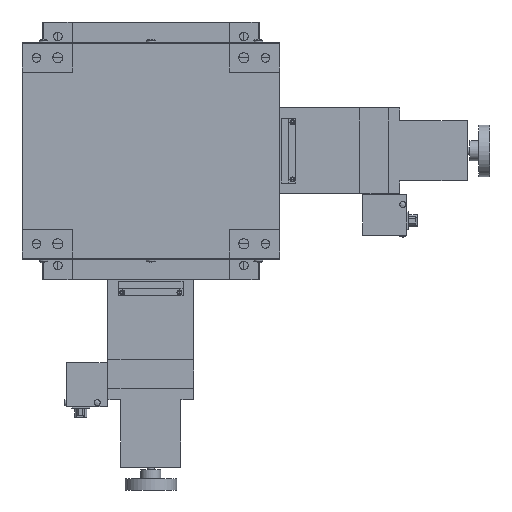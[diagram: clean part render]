
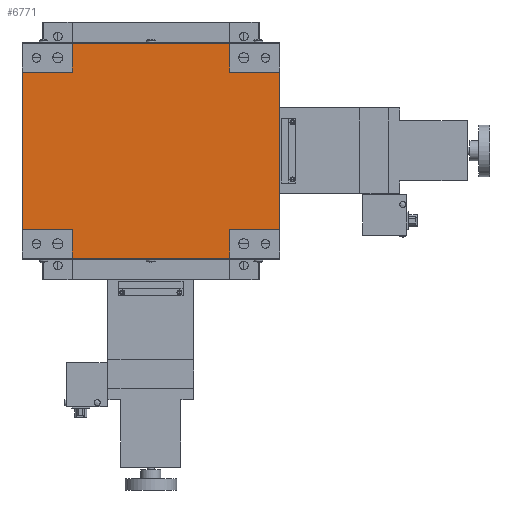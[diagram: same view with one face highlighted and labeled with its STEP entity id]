
A CAD part, front view. The second image highlights one B-rep face of the part: STEP entity #6771.
In plain terms, the highlighted planar face has unit normal (0, -1, 0).
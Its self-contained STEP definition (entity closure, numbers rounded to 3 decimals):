
#6246 = EDGE_CURVE ( 'NONE', #6528, #6247, #25334, .T. ) ;
#6247 = VERTEX_POINT ( 'NONE', #25330 ) ;
#6266 = VERTEX_POINT ( 'NONE', #25395 ) ;
#6291 = VERTEX_POINT ( 'NONE', #25347 ) ;
#6293 = EDGE_CURVE ( 'NONE', #6291, #6312, #25345, .T. ) ;
#6298 = EDGE_CURVE ( 'NONE', #6266, #6299, #25551, .T. ) ;
#6299 = VERTEX_POINT ( 'NONE', #25547 ) ;
#6312 = VERTEX_POINT ( 'NONE', #25522 ) ;
#6373 = VERTEX_POINT ( 'NONE', #25612 ) ;
#6388 = EDGE_CURVE ( 'NONE', #6266, #6373, #25653, .T. ) ;
#6528 = VERTEX_POINT ( 'NONE', #25786 ) ;
#6534 = VERTEX_POINT ( 'NONE', #25781 ) ;
#6537 = EDGE_CURVE ( 'NONE', #6534, #6528, #25907, .T. ) ;
#6546 = VERTEX_POINT ( 'NONE', #25888 ) ;
#6548 = EDGE_CURVE ( 'NONE', #6546, #6549, #25887, .T. ) ;
#6549 = VERTEX_POINT ( 'NONE', #25883 ) ;
#6622 = EDGE_CURVE ( 'NONE', #6373, #6247, #26236, .T. ) ;
#6678 = ORIENTED_EDGE ( 'NONE', *, *, #6679, .T. ) ;
#6679 = EDGE_CURVE ( 'NONE', #6680, #6312, #26290, .T. ) ;
#6680 = VERTEX_POINT ( 'NONE', #26282 ) ;
#6704 = EDGE_CURVE ( 'NONE', #6549, #6534, #26081, .T. ) ;
#6739 = ORIENTED_EDGE ( 'NONE', *, *, #6246, .F. ) ;
#6740 = ORIENTED_EDGE ( 'NONE', *, *, #6537, .F. ) ;
#6741 = ORIENTED_EDGE ( 'NONE', *, *, #6704, .F. ) ;
#6742 = ORIENTED_EDGE ( 'NONE', *, *, #6548, .F. ) ;
#6743 = ORIENTED_EDGE ( 'NONE', *, *, #6787, .F. ) ;
#6758 = EDGE_CURVE ( 'NONE', #6299, #6291, #26044, .T. ) ;
#6759 = ORIENTED_EDGE ( 'NONE', *, *, #6298, .F. ) ;
#6765 = ORIENTED_EDGE ( 'NONE', *, *, #6388, .T. ) ;
#6766 = ORIENTED_EDGE ( 'NONE', *, *, #6622, .T. ) ;
#6767 = ORIENTED_EDGE ( 'NONE', *, *, #6768, .F. ) ;
#6768 = EDGE_CURVE ( 'NONE', #6680, #6821, #26147, .T. ) ;
#6771 = ADVANCED_FACE ( 'NONE', ( #26137 ), #26136, .F. ) ;
#6772 = ORIENTED_EDGE ( 'NONE', *, *, #6293, .F. ) ;
#6773 = ORIENTED_EDGE ( 'NONE', *, *, #6758, .F. ) ;
#6774 = EDGE_LOOP ( 'NONE', ( #6678, #6772, #6773, #6759, #6765, #6766, #6739, #6740, #6741, #6742, #6743, #6767 ) ) ;
#6787 = EDGE_CURVE ( 'NONE', #6821, #6546, #26250, .T. ) ;
#6821 = VERTEX_POINT ( 'NONE', #26365 ) ;
#25330 = CARTESIAN_POINT ( 'NONE',  ( -90., 1., -55. ) ) ;
#25331 = DIRECTION ( 'NONE',  ( -1., 0., 0. ) ) ;
#25332 = VECTOR ( 'NONE', #25331, 1000. ) ;
#25333 = CARTESIAN_POINT ( 'NONE',  ( 90., 1., -55. ) ) ;
#25334 = LINE ( 'NONE', #25333, #25332 ) ;
#25342 = DIRECTION ( 'NONE',  ( 0., 0., -1. ) ) ;
#25343 = VECTOR ( 'NONE', #25342, 1000. ) ;
#25344 = CARTESIAN_POINT ( 'NONE',  ( 55., 1., -75. ) ) ;
#25345 = LINE ( 'NONE', #25344, #25343 ) ;
#25347 = CARTESIAN_POINT ( 'NONE',  ( 55., 1., 75. ) ) ;
#25395 = CARTESIAN_POINT ( 'NONE',  ( -55., 1., 55. ) ) ;
#25522 = CARTESIAN_POINT ( 'NONE',  ( 55., 1., 55. ) ) ;
#25547 = CARTESIAN_POINT ( 'NONE',  ( -55., 1., 75. ) ) ;
#25548 = DIRECTION ( 'NONE',  ( 0., 0., 1. ) ) ;
#25549 = VECTOR ( 'NONE', #25548, 1000. ) ;
#25550 = CARTESIAN_POINT ( 'NONE',  ( -55., 1., -75. ) ) ;
#25551 = LINE ( 'NONE', #25550, #25549 ) ;
#25612 = CARTESIAN_POINT ( 'NONE',  ( -90., 1., 55. ) ) ;
#25650 = DIRECTION ( 'NONE',  ( -1., 0., 0. ) ) ;
#25651 = VECTOR ( 'NONE', #25650, 1000. ) ;
#25652 = CARTESIAN_POINT ( 'NONE',  ( 90., 1., 55. ) ) ;
#25653 = LINE ( 'NONE', #25652, #25651 ) ;
#25781 = CARTESIAN_POINT ( 'NONE',  ( -55., 1., -75. ) ) ;
#25786 = CARTESIAN_POINT ( 'NONE',  ( -55., 1., -55. ) ) ;
#25883 = CARTESIAN_POINT ( 'NONE',  ( 55., 1., -75. ) ) ;
#25884 = DIRECTION ( 'NONE',  ( 0., 0., -1. ) ) ;
#25885 = VECTOR ( 'NONE', #25884, 1000. ) ;
#25886 = CARTESIAN_POINT ( 'NONE',  ( 55., 1., -75. ) ) ;
#25887 = LINE ( 'NONE', #25886, #25885 ) ;
#25888 = CARTESIAN_POINT ( 'NONE',  ( 55., 1., -55. ) ) ;
#25904 = DIRECTION ( 'NONE',  ( 0., 0., 1. ) ) ;
#25905 = VECTOR ( 'NONE', #25904, 1000. ) ;
#25906 = CARTESIAN_POINT ( 'NONE',  ( -55., 1., -75. ) ) ;
#25907 = LINE ( 'NONE', #25906, #25905 ) ;
#26041 = DIRECTION ( 'NONE',  ( 1., 0., 0. ) ) ;
#26042 = VECTOR ( 'NONE', #26041, 1000. ) ;
#26043 = CARTESIAN_POINT ( 'NONE',  ( -55., 1., 75. ) ) ;
#26044 = LINE ( 'NONE', #26043, #26042 ) ;
#26078 = DIRECTION ( 'NONE',  ( -1., 0., 0. ) ) ;
#26079 = VECTOR ( 'NONE', #26078, 1000. ) ;
#26080 = CARTESIAN_POINT ( 'NONE',  ( -55., 1., -75. ) ) ;
#26081 = LINE ( 'NONE', #26080, #26079 ) ;
#26132 = DIRECTION ( 'NONE',  ( 0., 0., 1. ) ) ;
#26133 = DIRECTION ( 'NONE',  ( 0., 1., 0. ) ) ;
#26134 = CARTESIAN_POINT ( 'NONE',  ( 90., 1., 55. ) ) ;
#26135 = AXIS2_PLACEMENT_3D ( 'NONE', #26134, #26133, #26132 ) ;
#26136 = PLANE ( 'NONE',  #26135 ) ;
#26137 = FACE_OUTER_BOUND ( 'NONE', #6774, .T. ) ;
#26144 = DIRECTION ( 'NONE',  ( 0., 0., -1. ) ) ;
#26145 = VECTOR ( 'NONE', #26144, 1000. ) ;
#26146 = CARTESIAN_POINT ( 'NONE',  ( 90., 1., 55. ) ) ;
#26147 = LINE ( 'NONE', #26146, #26145 ) ;
#26233 = DIRECTION ( 'NONE',  ( 0., 0., -1. ) ) ;
#26234 = VECTOR ( 'NONE', #26233, 1000. ) ;
#26235 = CARTESIAN_POINT ( 'NONE',  ( -90., 1., 55. ) ) ;
#26236 = LINE ( 'NONE', #26235, #26234 ) ;
#26247 = DIRECTION ( 'NONE',  ( -1., 0., 0. ) ) ;
#26248 = VECTOR ( 'NONE', #26247, 1000. ) ;
#26249 = CARTESIAN_POINT ( 'NONE',  ( 90., 1., -55. ) ) ;
#26250 = LINE ( 'NONE', #26249, #26248 ) ;
#26282 = CARTESIAN_POINT ( 'NONE',  ( 90., 1., 55. ) ) ;
#26283 = DIRECTION ( 'NONE',  ( -1., 0., 0. ) ) ;
#26284 = VECTOR ( 'NONE', #26283, 1000. ) ;
#26285 = CARTESIAN_POINT ( 'NONE',  ( 90., 1., 55. ) ) ;
#26290 = LINE ( 'NONE', #26285, #26284 ) ;
#26365 = CARTESIAN_POINT ( 'NONE',  ( 90., 1., -55. ) ) ;
